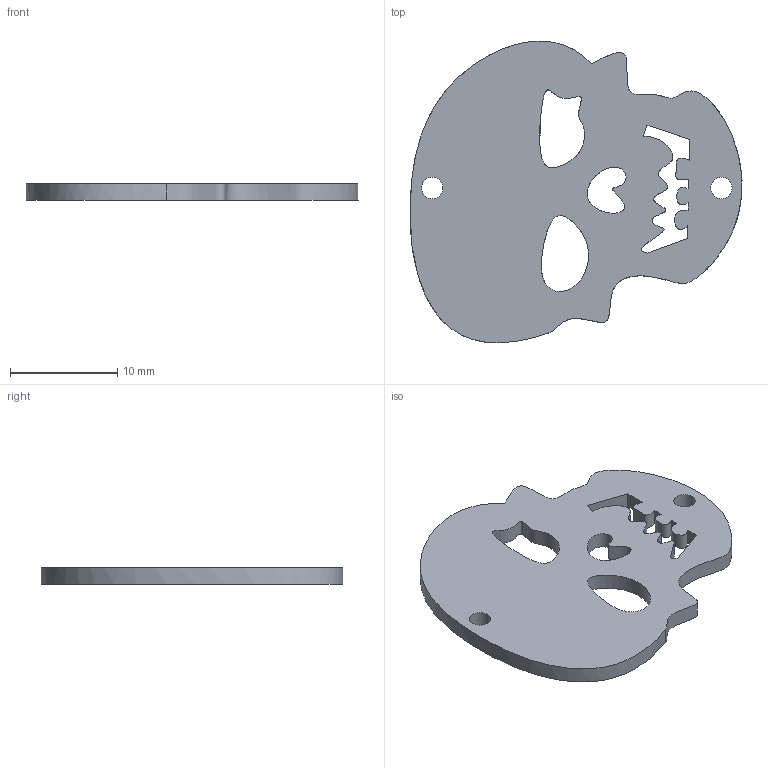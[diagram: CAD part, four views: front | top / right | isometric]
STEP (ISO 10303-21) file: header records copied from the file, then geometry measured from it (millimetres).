
FILE_DESCRIPTION(/* description */ ('','CAx-IF Rec.Pracs.---Representation and Presentation of Product Manufacturing Information (PMI)---4.0---2014-10-13'),/* implementation_level */ '2;1');
FILE_NAME(/* name */ 'Skelette_Kopf.step',/* time_stamp */ '2025-01-30T08:42:44+01:00',/* author */ (''),/* organization */ (''),/* preprocessor_version */ 'ST-DEVELOPER v20',/* originating_system */ 'Autodesk Translation Framework v13.20.0.188',/* authorisation */ '');
FILE_SCHEMA (('AP242_MANAGED_MODEL_BASED_3D_ENGINEERING_MIM_LF { 1 0 10303 442 1 1 4 }'));
Length unit declared in the file: millimetre
Products named in the file (1): 01_Skelette_Kopf
Bounding box: 31 x 28.18 x 1.5 mm (x, y, z)
Volume: 857.3 mm3; surface area: 1432.9 mm2
Topology: 1 solids, 1 shells, 20 faces, 54 edges, 36 vertices
Faces by surface type: bspline 9, plane 9, cylinder 2
Full cylindrical faces by diameter (mm): 2 x2
Entity records: 1962 total; most frequent: CARTESIAN_POINT 1484, ORIENTED_EDGE 108, DIRECTION 64, EDGE_CURVE 54, VERTEX_POINT 36, EDGE_LOOP 32, LINE 32, VECTOR 32
